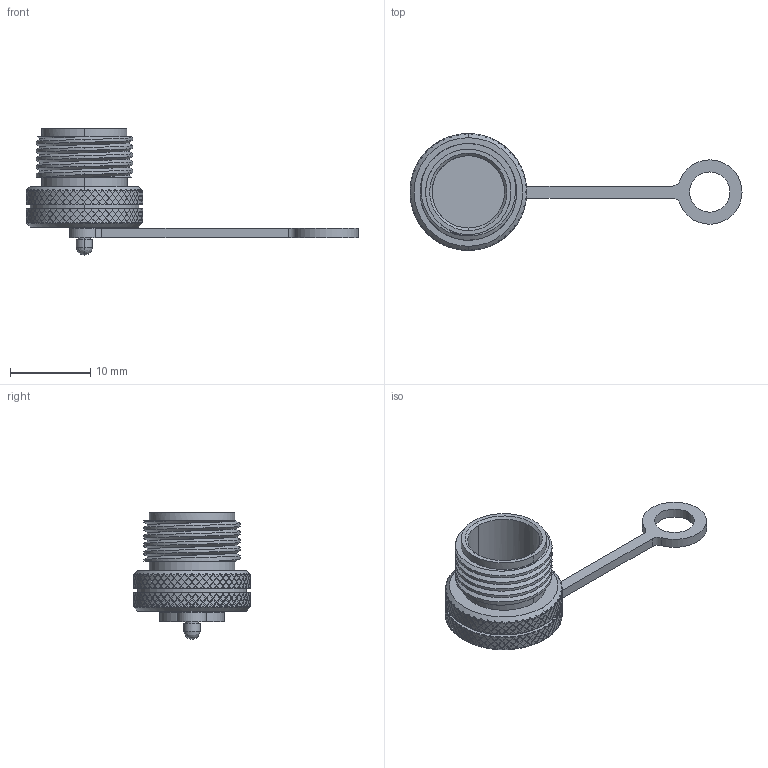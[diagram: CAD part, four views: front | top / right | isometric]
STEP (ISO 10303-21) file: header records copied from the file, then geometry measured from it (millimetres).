
FILE_DESCRIPTION (( 'STEP AP203' ), '1' );
FILE_NAME ('858-FDC-SS-T.STEP', '2026-01-26T14:21:18', ( '' ), ( '' ), 'SwSTEP 2.0', 'SolidWorks 2020', '' );
FILE_SCHEMA (( 'CONFIG_CONTROL_DESIGN' ));
Length unit declared in the file: millimetre
Products named in the file (1): 858-FDC-SS-T
Bounding box: 41.25 x 14.5 x 15.7 mm (x, y, z)
Volume: 997.2 mm3; surface area: 1663.2 mm2
Topology: 2 solids, 2 shells, 2465 faces, 6755 edges, 4490 vertices
Faces by surface type: bspline 1810, cylinder 586, cone 56, plane 13
Entity records: 143196 total; most frequent: CARTESIAN_POINT 96707, ORIENTED_EDGE 13502, EDGE_CURVE 6751, B_SPLINE_CURVE_WITH_KNOTS 5811, VERTEX_POINT 4490, DIRECTION 3050, EDGE_LOOP 2669, FACE_OUTER_BOUND 2465
